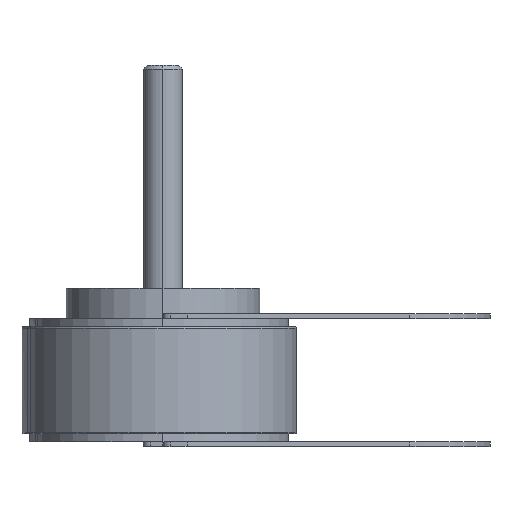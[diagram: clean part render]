
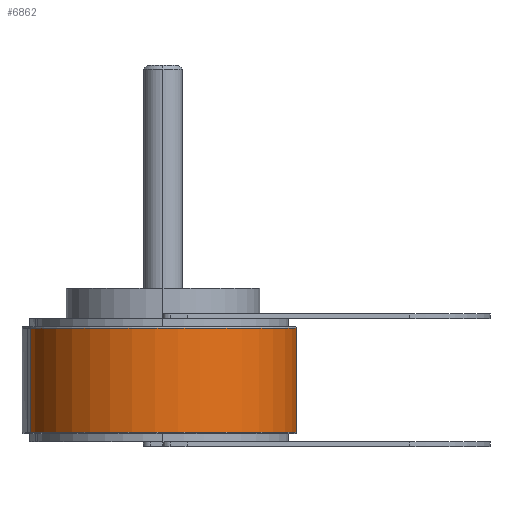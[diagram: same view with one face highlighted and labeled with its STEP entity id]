
A CAD part, left-side view. The second image highlights one B-rep face of the part: STEP entity #6862.
In plain terms, the highlighted cylindrical face has radius 55.179 mm (diameter 110.358 mm), a partial arc.
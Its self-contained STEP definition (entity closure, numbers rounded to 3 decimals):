
#178 = DIRECTION ( 'NONE',  ( 0., 0., 1. ) ) ;
#285 = CARTESIAN_POINT ( 'NONE',  ( 14.281, -53.299, -21.5 ) ) ;
#383 = DIRECTION ( 'NONE',  ( 0., 0., -1. ) ) ;
#1034 = CARTESIAN_POINT ( 'NONE',  ( -7.338, 54.689, -21.5 ) ) ;
#1145 = ORIENTED_EDGE ( 'NONE', *, *, #2986, .F. ) ;
#1150 = VERTEX_POINT ( 'NONE', #285 ) ;
#1271 = VECTOR ( 'NONE', #5554, 1000. ) ;
#1320 = DIRECTION ( 'NONE',  ( 1., 0., 0. ) ) ;
#1342 = VERTEX_POINT ( 'NONE', #2763 ) ;
#1367 = EDGE_CURVE ( 'NONE', #3900, #1150, #7246, .T. ) ;
#1615 = CARTESIAN_POINT ( 'NONE',  ( 0., 0., -21.5 ) ) ;
#1649 = DIRECTION ( 'NONE',  ( 0., 0., 1. ) ) ;
#2338 = ORIENTED_EDGE ( 'NONE', *, *, #6157, .T. ) ;
#2412 = EDGE_LOOP ( 'NONE', ( #2338, #3573, #2581, #1145 ) ) ;
#2581 = ORIENTED_EDGE ( 'NONE', *, *, #7042, .F. ) ;
#2763 = CARTESIAN_POINT ( 'NONE',  ( 14.281, -53.299, 21.5 ) ) ;
#2986 = EDGE_CURVE ( 'NONE', #5220, #1342, #4883, .T. ) ;
#3395 = FACE_OUTER_BOUND ( 'NONE', #2412, .T. ) ;
#3406 = DIRECTION ( 'NONE',  ( 0., 0., 1. ) ) ;
#3465 = CARTESIAN_POINT ( 'NONE',  ( 0., 0., 21.5 ) ) ;
#3573 = ORIENTED_EDGE ( 'NONE', *, *, #1367, .T. ) ;
#3715 = CARTESIAN_POINT ( 'NONE',  ( -7.338, 54.689, 0. ) ) ;
#3762 = CYLINDRICAL_SURFACE ( 'NONE', #5781, 55.179 ) ;
#3900 = VERTEX_POINT ( 'NONE', #1034 ) ;
#3969 = DIRECTION ( 'NONE',  ( 1., 0., 0. ) ) ;
#4303 = LINE ( 'NONE', #4409, #1271 ) ;
#4409 = CARTESIAN_POINT ( 'NONE',  ( 14.281, -53.299, 0. ) ) ;
#4771 = CARTESIAN_POINT ( 'NONE',  ( 0., 0., 0. ) ) ;
#4776 = VECTOR ( 'NONE', #383, 1000. ) ;
#4821 = CARTESIAN_POINT ( 'NONE',  ( -7.338, 54.689, 21.5 ) ) ;
#4883 = CIRCLE ( 'NONE', #5009, 55.179 ) ;
#4997 = AXIS2_PLACEMENT_3D ( 'NONE', #1615, #3406, #6209 ) ;
#5009 = AXIS2_PLACEMENT_3D ( 'NONE', #3465, #1649, #3969 ) ;
#5220 = VERTEX_POINT ( 'NONE', #4821 ) ;
#5554 = DIRECTION ( 'NONE',  ( 0., 0., -1. ) ) ;
#5781 = AXIS2_PLACEMENT_3D ( 'NONE', #4771, #178, #1320 ) ;
#6157 = EDGE_CURVE ( 'NONE', #5220, #3900, #6279, .T. ) ;
#6209 = DIRECTION ( 'NONE',  ( 1., 0., 0. ) ) ;
#6279 = LINE ( 'NONE', #3715, #4776 ) ;
#6862 = ADVANCED_FACE ( 'NONE', ( #3395 ), #3762, .T. ) ;
#7042 = EDGE_CURVE ( 'NONE', #1342, #1150, #4303, .T. ) ;
#7246 = CIRCLE ( 'NONE', #4997, 55.179 ) ;
